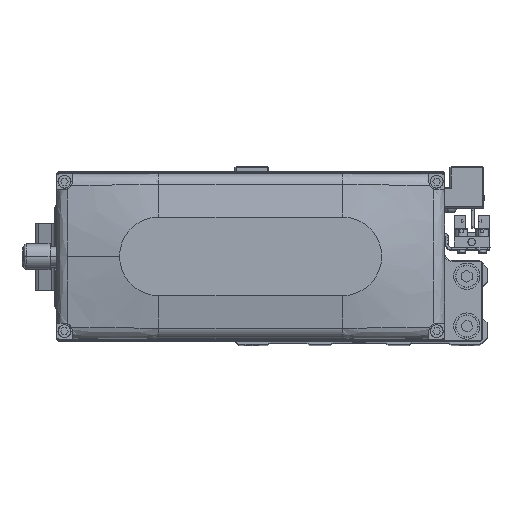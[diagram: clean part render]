
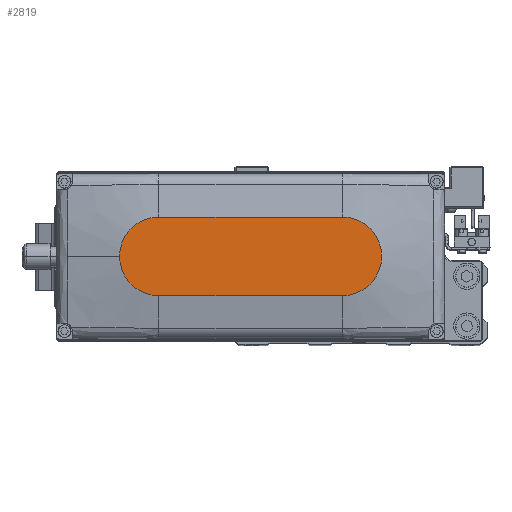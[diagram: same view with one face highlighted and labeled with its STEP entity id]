
A CAD part, top view. The second image highlights one B-rep face of the part: STEP entity #2819.
In plain terms, the highlighted planar face has unit normal (0, 0, 1).
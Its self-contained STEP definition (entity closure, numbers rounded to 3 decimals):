
#241 = DIRECTION ( 'NONE',  ( -1., 0., 0. ) ) ;
#2819 = ADVANCED_FACE ( 'NONE', ( #35857 ), #8875, .T. ) ;
#3028 = VECTOR ( 'NONE', #20790, 1000. ) ;
#3706 = AXIS2_PLACEMENT_3D ( 'NONE', #19156, #11966, #23962 ) ;
#3913 = CIRCLE ( 'NONE', #25939, 15. ) ;
#5905 = DIRECTION ( 'NONE',  ( 1., 0., 0. ) ) ;
#5990 = DIRECTION ( 'NONE',  ( 1., 0., 0. ) ) ;
#7163 = VECTOR ( 'NONE', #241, 1000. ) ;
#8784 = CARTESIAN_POINT ( 'NONE',  ( -35., -15., 35. ) ) ;
#8875 = PLANE ( 'NONE',  #32465 ) ;
#8877 = DIRECTION ( 'NONE',  ( 0., 0., 1. ) ) ;
#9062 = AXIS2_PLACEMENT_3D ( 'NONE', #35860, #8877, #20879 ) ;
#10842 = CARTESIAN_POINT ( 'NONE',  ( -35., -15., 35. ) ) ;
#11088 = CARTESIAN_POINT ( 'NONE',  ( 35., 15., 35. ) ) ;
#11966 = DIRECTION ( 'NONE',  ( 0., 0., 1. ) ) ;
#12274 = VERTEX_POINT ( 'NONE', #11088 ) ;
#12638 = ORIENTED_EDGE ( 'NONE', *, *, #31497, .T. ) ;
#13301 = CARTESIAN_POINT ( 'NONE',  ( 50., 0., 35. ) ) ;
#15176 = LINE ( 'NONE', #27190, #7163 ) ;
#15296 = ORIENTED_EDGE ( 'NONE', *, *, #20267, .T. ) ;
#15657 = ORIENTED_EDGE ( 'NONE', *, *, #26059, .T. ) ;
#19156 = CARTESIAN_POINT ( 'NONE',  ( -35., 0., 35. ) ) ;
#19464 = CARTESIAN_POINT ( 'NONE',  ( 35., -15., 35. ) ) ;
#20267 = EDGE_CURVE ( 'NONE', #20895, #33068, #35777, .T. ) ;
#20679 = CIRCLE ( 'NONE', #3706, 15. ) ;
#20790 = DIRECTION ( 'NONE',  ( 1., 0., 0. ) ) ;
#20876 = CARTESIAN_POINT ( 'NONE',  ( 0., 0., 35. ) ) ;
#20879 = DIRECTION ( 'NONE',  ( 1., 0., 0. ) ) ;
#20895 = VERTEX_POINT ( 'NONE', #10842 ) ;
#20956 = CARTESIAN_POINT ( 'NONE',  ( 35., 0., 35. ) ) ;
#23962 = DIRECTION ( 'NONE',  ( 1., 0., 0. ) ) ;
#25939 = AXIS2_PLACEMENT_3D ( 'NONE', #20956, #32983, #5990 ) ;
#26031 = CIRCLE ( 'NONE', #9062, 15. ) ;
#26059 = EDGE_CURVE ( 'NONE', #33068, #30416, #3913, .T. ) ;
#26577 = VERTEX_POINT ( 'NONE', #37060 ) ;
#27190 = CARTESIAN_POINT ( 'NONE',  ( -35., 15., 35. ) ) ;
#28095 = EDGE_CURVE ( 'NONE', #30416, #12274, #26031, .T. ) ;
#28161 = EDGE_CURVE ( 'NONE', #12274, #26577, #15176, .T. ) ;
#30396 = EDGE_LOOP ( 'NONE', ( #31946, #12638, #15296, #15657, #30782 ) ) ;
#30416 = VERTEX_POINT ( 'NONE', #13301 ) ;
#30782 = ORIENTED_EDGE ( 'NONE', *, *, #28095, .T. ) ;
#31497 = EDGE_CURVE ( 'NONE', #26577, #20895, #20679, .T. ) ;
#31946 = ORIENTED_EDGE ( 'NONE', *, *, #28161, .T. ) ;
#32465 = AXIS2_PLACEMENT_3D ( 'NONE', #20876, #32901, #5905 ) ;
#32901 = DIRECTION ( 'NONE',  ( 0., 0., 1. ) ) ;
#32983 = DIRECTION ( 'NONE',  ( 0., 0., 1. ) ) ;
#33068 = VERTEX_POINT ( 'NONE', #19464 ) ;
#35777 = LINE ( 'NONE', #8784, #3028 ) ;
#35857 = FACE_OUTER_BOUND ( 'NONE', #30396, .T. ) ;
#35860 = CARTESIAN_POINT ( 'NONE',  ( 35., 0., 35. ) ) ;
#37060 = CARTESIAN_POINT ( 'NONE',  ( -35., 15., 35. ) ) ;
